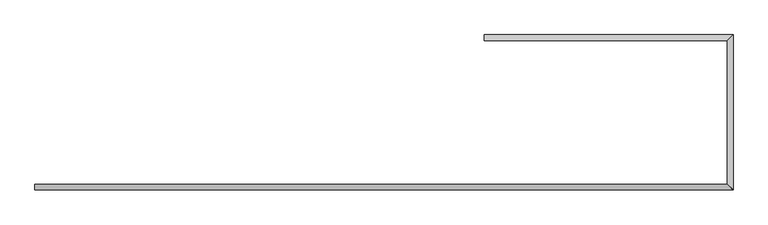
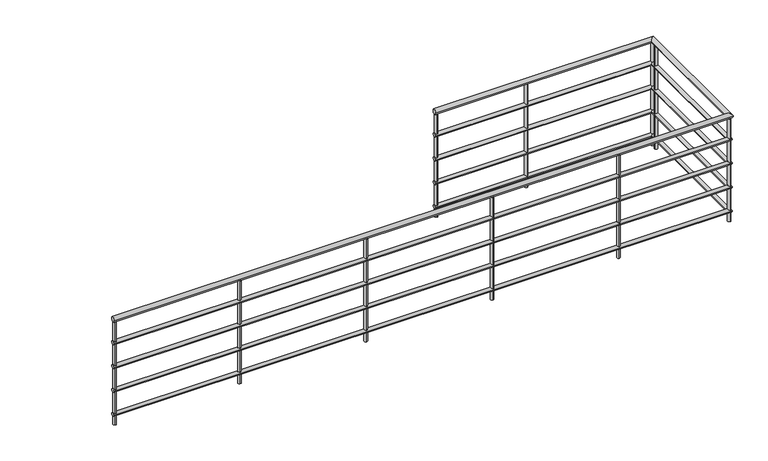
"""IFC4 building model written with IfcOpenShell, lengths in millimetres: railing geometry, 900mm 管."""

from ifc_helpers import new_model, si_unit, point, frame, frame_2d, origin, origin_with_axes, place, context, project, spatial, circle_curve, ellipse_curve, trimmed, segment, composite_curve, outline, extrude, source, transform, mapped, element, save
from ifc_brep_helpers import plane_surface, cylinder_surface, advanced_brep


def railing_f8acf562(model_context):
    return source(origin(), model_context, "Body", "SolidModel", [
        advanced_brep(
        [(7752.9445117, -5604.1637817, 880.0), (7752.9445117, -5644.1637817, 880.0), (12607.9445117, -5604.1637817, 880.0), (12647.9445117, -5644.1637817, 880.0), (12607.9445117, -4594.1637817, 880.0), (12647.9445117, -4554.1637817, 880.0), (10902.9445117, -4594.1637817, 880.0), (10902.9445117, -4554.1637817, 880.0)],
        [
            (0, 1, circle_curve(frame((7752.9445117, -5624.1637817, 880.0), z_axis=(-1.0, 0.0, 0.0), x_axis=(0.0, -1.0, 0.0)), 20.0)),
            (1, 0, circle_curve(frame((7752.9445117, -5624.1637817, 880.0), z_axis=(-1.0, 0.0, 0.0), x_axis=(0.0, -1.0, 0.0)), 20.0)),
            (0, 2),
            (2, 3, ellipse_curve(frame((12627.9445117, -5624.1637817, 880.0), z_axis=(-0.7071067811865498, -0.7071067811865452, 0.0), x_axis=(-0.7071067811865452, 0.7071067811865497, 0.0)), 28.2842712, 20.0)),
            (3, 1),
            (3, 2, ellipse_curve(frame((12627.9445117, -5624.1637817, 880.0), z_axis=(-0.7071067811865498, -0.7071067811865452, 0.0), x_axis=(-0.7071067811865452, 0.7071067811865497, 0.0)), 28.2842712, 20.0)),
            (2, 4),
            (4, 5, ellipse_curve(frame((12627.9445117, -4574.1637817, 880.0), z_axis=(0.7071067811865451, -0.7071067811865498, 0.0), x_axis=(-0.7071067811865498, -0.7071067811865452, 0.0)), 28.2842712, 20.0)),
            (5, 3),
            (5, 4, ellipse_curve(frame((12627.9445117, -4574.1637817, 880.0), z_axis=(0.7071067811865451, -0.7071067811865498, 0.0), x_axis=(-0.7071067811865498, -0.7071067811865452, 0.0)), 28.2842712, 20.0)),
            (6, 7, circle_curve(frame((10902.9445117, -4574.1637817, 880.0), z_axis=(-1.0, 0.0, 0.0), x_axis=(0.0, 1.0, 0.0)), 20.0)),
            (7, 6, circle_curve(frame((10902.9445117, -4574.1637817, 880.0), z_axis=(-1.0, 0.0, 0.0), x_axis=(0.0, 1.0, 0.0)), 20.0)),
            (4, 6),
            (7, 5),
        ],
        [
            plane_surface(frame((7752.9445117, -5624.1637817, 900.0), z_axis=(-1.0, 0.0, 0.0), x_axis=(0.0, 1.0, 0.0))),
            cylinder_surface(frame((7752.9445117, -5624.1637817, 880.0), z_axis=(-1.0, 0.0, 0.0), x_axis=(0.0, -1.0, 0.0)), 20.0),
            cylinder_surface(frame((12627.9445117, -5624.1637817, 880.0), z_axis=(0.0, -1.0, 0.0), x_axis=(1.0, 0.0, 0.0)), 20.0),
            plane_surface(frame((10902.9445117, -4574.1637817, 900.0), z_axis=(-1.0, 0.0, 0.0), x_axis=(0.0, -1.0, 0.0))),
            cylinder_surface(frame((12627.9445117, -4574.1637817, 880.0), z_axis=(1.0, 0.0, 0.0), x_axis=(0.0, 1.0, 0.0)), 20.0),
        ],
        [
            (0, [[1, 2]]),
            (1, [[-1, 3, 4, 5]]),
            (1, [[-2, -5, 6, -3]]),
            (2, [[-4, 7, 8, 9]]),
            (2, [[-6, -9, 10, -7]]),
            (3, [[11, 12]]),
            (4, [[-8, 13, -12, 14]]),
            (4, [[-10, -14, -11, -13]]),
        ],
    ),
        advanced_brep(
        [(7752.9445117, -5609.1637817, 685.0), (7752.9445117, -5639.1637817, 685.0), (12612.9445117, -5609.1637817, 685.0), (12642.9445117, -5639.1637817, 685.0), (12612.9445117, -4589.1637817, 685.0), (12642.9445117, -4559.1637817, 685.0), (10902.9445117, -4589.1637817, 685.0), (10902.9445117, -4559.1637817, 685.0)],
        [
            (0, 1, circle_curve(frame((7752.9445117, -5624.1637817, 685.0), z_axis=(-1.0, 0.0, 0.0), x_axis=(0.0, -1.0, 0.0)), 15.0)),
            (1, 0, circle_curve(frame((7752.9445117, -5624.1637817, 685.0), z_axis=(-1.0, 0.0, 0.0), x_axis=(0.0, -1.0, 0.0)), 15.0)),
            (0, 2),
            (2, 3, ellipse_curve(frame((12627.9445117, -5624.1637817, 685.0), z_axis=(-0.7071067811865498, -0.7071067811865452, 0.0), x_axis=(-0.7071067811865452, 0.7071067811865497, 0.0)), 21.2132034, 15.0)),
            (3, 1),
            (3, 2, ellipse_curve(frame((12627.9445117, -5624.1637817, 685.0), z_axis=(-0.7071067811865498, -0.7071067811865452, 0.0), x_axis=(-0.7071067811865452, 0.7071067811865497, 0.0)), 21.2132034, 15.0)),
            (2, 4),
            (4, 5, ellipse_curve(frame((12627.9445117, -4574.1637817, 685.0), z_axis=(0.7071067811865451, -0.7071067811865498, 0.0), x_axis=(-0.7071067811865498, -0.7071067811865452, 0.0)), 21.2132034, 15.0)),
            (5, 3),
            (5, 4, ellipse_curve(frame((12627.9445117, -4574.1637817, 685.0), z_axis=(0.7071067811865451, -0.7071067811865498, 0.0), x_axis=(-0.7071067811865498, -0.7071067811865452, 0.0)), 21.2132034, 15.0)),
            (6, 7, circle_curve(frame((10902.9445117, -4574.1637817, 685.0), z_axis=(-1.0, 0.0, 0.0), x_axis=(0.0, 1.0, 0.0)), 15.0)),
            (7, 6, circle_curve(frame((10902.9445117, -4574.1637817, 685.0), z_axis=(-1.0, 0.0, 0.0), x_axis=(0.0, 1.0, 0.0)), 15.0)),
            (4, 6),
            (7, 5),
        ],
        [
            plane_surface(frame((7752.9445117, -5624.1637817, 700.0), z_axis=(-1.0, 0.0, 0.0), x_axis=(0.0, 1.0, 0.0))),
            cylinder_surface(frame((7752.9445117, -5624.1637817, 685.0), z_axis=(-1.0, 0.0, 0.0), x_axis=(0.0, -1.0, 0.0)), 15.0),
            cylinder_surface(frame((12627.9445117, -5624.1637817, 685.0), z_axis=(0.0, -1.0, 0.0), x_axis=(1.0, 0.0, 0.0)), 15.0),
            plane_surface(frame((10902.9445117, -4574.1637817, 700.0), z_axis=(-1.0, 0.0, 0.0), x_axis=(0.0, -1.0, 0.0))),
            cylinder_surface(frame((12627.9445117, -4574.1637817, 685.0), z_axis=(1.0, 0.0, 0.0), x_axis=(0.0, 1.0, 0.0)), 15.0),
        ],
        [
            (0, [[1, 2]]),
            (1, [[-1, 3, 4, 5]]),
            (1, [[-2, -5, 6, -3]]),
            (2, [[-4, 7, 8, 9]]),
            (2, [[-6, -9, 10, -7]]),
            (3, [[11, 12]]),
            (4, [[-8, 13, -12, 14]]),
            (4, [[-10, -14, -11, -13]]),
        ],
    ),
        advanced_brep(
        [(7752.9445117, -5609.1637817, 485.0), (7752.9445117, -5639.1637817, 485.0), (12612.9445117, -5609.1637817, 485.0), (12642.9445117, -5639.1637817, 485.0), (12612.9445117, -4589.1637817, 485.0), (12642.9445117, -4559.1637817, 485.0), (10902.9445117, -4589.1637817, 485.0), (10902.9445117, -4559.1637817, 485.0)],
        [
            (0, 1, circle_curve(frame((7752.9445117, -5624.1637817, 485.0), z_axis=(-1.0, 0.0, 0.0), x_axis=(0.0, -1.0, 0.0)), 15.0)),
            (1, 0, circle_curve(frame((7752.9445117, -5624.1637817, 485.0), z_axis=(-1.0, 0.0, 0.0), x_axis=(0.0, -1.0, 0.0)), 15.0)),
            (0, 2),
            (2, 3, ellipse_curve(frame((12627.9445117, -5624.1637817, 485.0), z_axis=(-0.7071067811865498, -0.7071067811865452, 0.0), x_axis=(-0.7071067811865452, 0.7071067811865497, 0.0)), 21.2132034, 15.0)),
            (3, 1),
            (3, 2, ellipse_curve(frame((12627.9445117, -5624.1637817, 485.0), z_axis=(-0.7071067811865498, -0.7071067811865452, 0.0), x_axis=(-0.7071067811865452, 0.7071067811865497, 0.0)), 21.2132034, 15.0)),
            (2, 4),
            (4, 5, ellipse_curve(frame((12627.9445117, -4574.1637817, 485.0), z_axis=(0.7071067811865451, -0.7071067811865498, 0.0), x_axis=(-0.7071067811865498, -0.7071067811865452, 0.0)), 21.2132034, 15.0)),
            (5, 3),
            (5, 4, ellipse_curve(frame((12627.9445117, -4574.1637817, 485.0), z_axis=(0.7071067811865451, -0.7071067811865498, 0.0), x_axis=(-0.7071067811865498, -0.7071067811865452, 0.0)), 21.2132034, 15.0)),
            (6, 7, circle_curve(frame((10902.9445117, -4574.1637817, 485.0), z_axis=(-1.0, 0.0, 0.0), x_axis=(0.0, 1.0, 0.0)), 15.0)),
            (7, 6, circle_curve(frame((10902.9445117, -4574.1637817, 485.0), z_axis=(-1.0, 0.0, 0.0), x_axis=(0.0, 1.0, 0.0)), 15.0)),
            (4, 6),
            (7, 5),
        ],
        [
            plane_surface(frame((7752.9445117, -5624.1637817, 500.0), z_axis=(-1.0, 0.0, 0.0), x_axis=(0.0, 1.0, 0.0))),
            cylinder_surface(frame((7752.9445117, -5624.1637817, 485.0), z_axis=(-1.0, 0.0, 0.0), x_axis=(0.0, -1.0, 0.0)), 15.0),
            cylinder_surface(frame((12627.9445117, -5624.1637817, 485.0), z_axis=(0.0, -1.0, 0.0), x_axis=(1.0, 0.0, 0.0)), 15.0),
            plane_surface(frame((10902.9445117, -4574.1637817, 500.0), z_axis=(-1.0, 0.0, 0.0), x_axis=(0.0, -1.0, 0.0))),
            cylinder_surface(frame((12627.9445117, -4574.1637817, 485.0), z_axis=(1.0, 0.0, 0.0), x_axis=(0.0, 1.0, 0.0)), 15.0),
        ],
        [
            (0, [[1, 2]]),
            (1, [[-1, 3, 4, 5]]),
            (1, [[-2, -5, 6, -3]]),
            (2, [[-4, 7, 8, 9]]),
            (2, [[-6, -9, 10, -7]]),
            (3, [[11, 12]]),
            (4, [[-8, 13, -12, 14]]),
            (4, [[-10, -14, -11, -13]]),
        ],
    ),
        advanced_brep(
        [(7752.9445117, -5609.1637817, 285.0), (7752.9445117, -5639.1637817, 285.0), (12612.9445117, -5609.1637817, 285.0), (12642.9445117, -5639.1637817, 285.0), (12612.9445117, -4589.1637817, 285.0), (12642.9445117, -4559.1637817, 285.0), (10902.9445117, -4589.1637817, 285.0), (10902.9445117, -4559.1637817, 285.0)],
        [
            (0, 1, circle_curve(frame((7752.9445117, -5624.1637817, 285.0), z_axis=(-1.0, 0.0, 0.0), x_axis=(0.0, -1.0, 0.0)), 15.0)),
            (1, 0, circle_curve(frame((7752.9445117, -5624.1637817, 285.0), z_axis=(-1.0, 0.0, 0.0), x_axis=(0.0, -1.0, 0.0)), 15.0)),
            (0, 2),
            (2, 3, ellipse_curve(frame((12627.9445117, -5624.1637817, 285.0), z_axis=(-0.7071067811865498, -0.7071067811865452, 0.0), x_axis=(-0.7071067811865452, 0.7071067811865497, 0.0)), 21.2132034, 15.0)),
            (3, 1),
            (3, 2, ellipse_curve(frame((12627.9445117, -5624.1637817, 285.0), z_axis=(-0.7071067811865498, -0.7071067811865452, 0.0), x_axis=(-0.7071067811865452, 0.7071067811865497, 0.0)), 21.2132034, 15.0)),
            (2, 4),
            (4, 5, ellipse_curve(frame((12627.9445117, -4574.1637817, 285.0), z_axis=(0.7071067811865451, -0.7071067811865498, 0.0), x_axis=(-0.7071067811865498, -0.7071067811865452, 0.0)), 21.2132034, 15.0)),
            (5, 3),
            (5, 4, ellipse_curve(frame((12627.9445117, -4574.1637817, 285.0), z_axis=(0.7071067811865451, -0.7071067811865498, 0.0), x_axis=(-0.7071067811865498, -0.7071067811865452, 0.0)), 21.2132034, 15.0)),
            (6, 7, circle_curve(frame((10902.9445117, -4574.1637817, 285.0), z_axis=(-1.0, 0.0, 0.0), x_axis=(0.0, 1.0, 0.0)), 15.0)),
            (7, 6, circle_curve(frame((10902.9445117, -4574.1637817, 285.0), z_axis=(-1.0, 0.0, 0.0), x_axis=(0.0, 1.0, 0.0)), 15.0)),
            (4, 6),
            (7, 5),
        ],
        [
            plane_surface(frame((7752.9445117, -5624.1637817, 300.0), z_axis=(-1.0, 0.0, 0.0), x_axis=(0.0, 1.0, 0.0))),
            cylinder_surface(frame((7752.9445117, -5624.1637817, 285.0), z_axis=(-1.0, 0.0, 0.0), x_axis=(0.0, -1.0, 0.0)), 15.0),
            cylinder_surface(frame((12627.9445117, -5624.1637817, 285.0), z_axis=(0.0, -1.0, 0.0), x_axis=(1.0, 0.0, 0.0)), 15.0),
            plane_surface(frame((10902.9445117, -4574.1637817, 300.0), z_axis=(-1.0, 0.0, 0.0), x_axis=(0.0, -1.0, 0.0))),
            cylinder_surface(frame((12627.9445117, -4574.1637817, 285.0), z_axis=(1.0, 0.0, 0.0), x_axis=(0.0, 1.0, 0.0)), 15.0),
        ],
        [
            (0, [[1, 2]]),
            (1, [[-1, 3, 4, 5]]),
            (1, [[-2, -5, 6, -3]]),
            (2, [[-4, 7, 8, 9]]),
            (2, [[-6, -9, 10, -7]]),
            (3, [[11, 12]]),
            (4, [[-8, 13, -12, 14]]),
            (4, [[-10, -14, -11, -13]]),
        ],
    ),
        advanced_brep(
        [(7752.9445117, -5609.1637817, 85.0), (7752.9445117, -5639.1637817, 85.0), (12612.9445117, -5609.1637817, 85.0), (12642.9445117, -5639.1637817, 85.0), (12612.9445117, -4589.1637817, 85.0), (12642.9445117, -4559.1637817, 85.0), (10902.9445117, -4589.1637817, 85.0), (10902.9445117, -4559.1637817, 85.0)],
        [
            (0, 1, circle_curve(frame((7752.9445117, -5624.1637817, 85.0), z_axis=(-1.0, 0.0, 0.0), x_axis=(0.0, -1.0, 0.0)), 15.0)),
            (1, 0, circle_curve(frame((7752.9445117, -5624.1637817, 85.0), z_axis=(-1.0, 0.0, 0.0), x_axis=(0.0, -1.0, 0.0)), 15.0)),
            (0, 2),
            (2, 3, ellipse_curve(frame((12627.9445117, -5624.1637817, 85.0), z_axis=(-0.7071067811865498, -0.7071067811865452, 0.0), x_axis=(-0.7071067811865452, 0.7071067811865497, 0.0)), 21.2132034, 15.0)),
            (3, 1),
            (3, 2, ellipse_curve(frame((12627.9445117, -5624.1637817, 85.0), z_axis=(-0.7071067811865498, -0.7071067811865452, 0.0), x_axis=(-0.7071067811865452, 0.7071067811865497, 0.0)), 21.2132034, 15.0)),
            (2, 4),
            (4, 5, ellipse_curve(frame((12627.9445117, -4574.1637817, 85.0), z_axis=(0.7071067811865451, -0.7071067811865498, 0.0), x_axis=(-0.7071067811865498, -0.7071067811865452, 0.0)), 21.2132034, 15.0)),
            (5, 3),
            (5, 4, ellipse_curve(frame((12627.9445117, -4574.1637817, 85.0), z_axis=(0.7071067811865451, -0.7071067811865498, 0.0), x_axis=(-0.7071067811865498, -0.7071067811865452, 0.0)), 21.2132034, 15.0)),
            (6, 7, circle_curve(frame((10902.9445117, -4574.1637817, 85.0), z_axis=(-1.0, 0.0, 0.0), x_axis=(0.0, 1.0, 0.0)), 15.0)),
            (7, 6, circle_curve(frame((10902.9445117, -4574.1637817, 85.0), z_axis=(-1.0, 0.0, 0.0), x_axis=(0.0, 1.0, 0.0)), 15.0)),
            (4, 6),
            (7, 5),
        ],
        [
            plane_surface(frame((7752.9445117, -5624.1637817, 100.0), z_axis=(-1.0, 0.0, 0.0), x_axis=(0.0, 1.0, 0.0))),
            cylinder_surface(frame((7752.9445117, -5624.1637817, 85.0), z_axis=(-1.0, 0.0, 0.0), x_axis=(0.0, -1.0, 0.0)), 15.0),
            cylinder_surface(frame((12627.9445117, -5624.1637817, 85.0), z_axis=(0.0, -1.0, 0.0), x_axis=(1.0, 0.0, 0.0)), 15.0),
            plane_surface(frame((10902.9445117, -4574.1637817, 100.0), z_axis=(-1.0, 0.0, 0.0), x_axis=(0.0, -1.0, 0.0))),
            cylinder_surface(frame((12627.9445117, -4574.1637817, 85.0), z_axis=(1.0, 0.0, 0.0), x_axis=(0.0, 1.0, 0.0)), 15.0),
        ],
        [
            (0, [[1, 2]]),
            (1, [[-1, 3, 4, 5]]),
            (1, [[-2, -5, 6, -3]]),
            (2, [[-4, 7, 8, 9]]),
            (2, [[-6, -9, 10, -7]]),
            (3, [[11, 12]]),
            (4, [[-8, 13, -12, 14]]),
            (4, [[-10, -14, -11, -13]]),
        ],
    ),
        extrude(outline(composite_curve([segment(trimmed(circle_curve(frame_2d((11627.9445117, -4574.1637817)), 12.5), [point((11627.9445117, -4586.6637817))], [point((11627.9445117, -4561.6637817))], False, "CARTESIAN"), True, "CONTINUOUS"), segment(trimmed(circle_curve(frame_2d((11627.9445117, -4574.1637817)), 12.5), [point((11627.9445117, -4561.6637817))], [point((11627.9445117, -4586.6637817))], False, "CARTESIAN"), True, "CONTINUOUS")], self_intersect=False)), origin_with_axes(), (0.0, 0.0, 1.0), 860.0),
        extrude(outline(composite_curve([segment(trimmed(circle_curve(frame_2d((12627.9445117, -4624.1637817)), 12.5), [point((12615.4445117, -4624.1637817))], [point((12640.4445117, -4624.1637817))], False, "CARTESIAN"), True, "CONTINUOUS"), segment(trimmed(circle_curve(frame_2d((12627.9445117, -4624.1637817)), 12.5), [point((12640.4445117, -4624.1637817))], [point((12615.4445117, -4624.1637817))], False, "CARTESIAN"), True, "CONTINUOUS")], self_intersect=False)), origin_with_axes(), (0.0, 0.0, 1.0), 860.0),
        extrude(outline(composite_curve([segment(trimmed(circle_curve(frame_2d((11752.9445117, -5624.1637817)), 12.5), [point((11752.9445117, -5611.6637817))], [point((11752.9445117, -5636.6637817))], False, "CARTESIAN"), True, "CONTINUOUS"), segment(trimmed(circle_curve(frame_2d((11752.9445117, -5624.1637817)), 12.5), [point((11752.9445117, -5636.6637817))], [point((11752.9445117, -5611.6637817))], False, "CARTESIAN"), True, "CONTINUOUS")], self_intersect=False)), origin_with_axes(), (0.0, 0.0, 1.0), 860.0),
        extrude(outline(composite_curve([segment(trimmed(circle_curve(frame_2d((10752.9445117, -5624.1637817)), 12.5), [point((10752.9445117, -5611.6637817))], [point((10752.9445117, -5636.6637817))], False, "CARTESIAN"), True, "CONTINUOUS"), segment(trimmed(circle_curve(frame_2d((10752.9445117, -5624.1637817)), 12.5), [point((10752.9445117, -5636.6637817))], [point((10752.9445117, -5611.6637817))], False, "CARTESIAN"), True, "CONTINUOUS")], self_intersect=False)), origin_with_axes(), (0.0, 0.0, 1.0), 860.0),
        extrude(outline(composite_curve([segment(trimmed(circle_curve(frame_2d((9752.9445117, -5624.1637817)), 12.5), [point((9752.9445117, -5611.6637817))], [point((9752.9445117, -5636.6637817))], False, "CARTESIAN"), True, "CONTINUOUS"), segment(trimmed(circle_curve(frame_2d((9752.9445117, -5624.1637817)), 12.5), [point((9752.9445117, -5636.6637817))], [point((9752.9445117, -5611.6637817))], False, "CARTESIAN"), True, "CONTINUOUS")], self_intersect=False)), origin_with_axes(), (0.0, 0.0, 1.0), 860.0),
        extrude(outline(composite_curve([segment(trimmed(circle_curve(frame_2d((8752.9445117, -5624.1637817)), 12.5), [point((8752.9445117, -5611.6637817))], [point((8752.9445117, -5636.6637817))], False, "CARTESIAN"), True, "CONTINUOUS"), segment(trimmed(circle_curve(frame_2d((8752.9445117, -5624.1637817)), 12.5), [point((8752.9445117, -5636.6637817))], [point((8752.9445117, -5611.6637817))], False, "CARTESIAN"), True, "CONTINUOUS")], self_intersect=False)), origin_with_axes(), (0.0, 0.0, 1.0), 860.0),
        extrude(outline(composite_curve([segment(trimmed(circle_curve(frame_2d((12627.9445117, -4574.1637817)), 12.5), [point((12615.4445117, -4574.1637817))], [point((12640.4445117, -4574.1637817))], False, "CARTESIAN"), True, "CONTINUOUS"), segment(trimmed(circle_curve(frame_2d((12627.9445117, -4574.1637817)), 12.5), [point((12640.4445117, -4574.1637817))], [point((12615.4445117, -4574.1637817))], False, "CARTESIAN"), True, "CONTINUOUS")], self_intersect=False)), origin_with_axes(), (0.0, 0.0, 1.0), 860.0),
        extrude(outline(composite_curve([segment(trimmed(circle_curve(frame_2d((12627.9445117, -5624.1637817)), 12.5), [point((12627.9445117, -5611.6637817))], [point((12627.9445117, -5636.6637817))], False, "CARTESIAN"), True, "CONTINUOUS"), segment(trimmed(circle_curve(frame_2d((12627.9445117, -5624.1637817)), 12.5), [point((12627.9445117, -5636.6637817))], [point((12627.9445117, -5611.6637817))], False, "CARTESIAN"), True, "CONTINUOUS")], self_intersect=False)), origin_with_axes(), (0.0, 0.0, 1.0), 860.0),
        extrude(outline(composite_curve([segment(trimmed(circle_curve(frame_2d((10915.4445117, -4574.1637817)), 12.5), [point((10915.4445117, -4586.6637817))], [point((10915.4445117, -4561.6637817))], False, "CARTESIAN"), True, "CONTINUOUS"), segment(trimmed(circle_curve(frame_2d((10915.4445117, -4574.1637817)), 12.5), [point((10915.4445117, -4561.6637817))], [point((10915.4445117, -4586.6637817))], False, "CARTESIAN"), True, "CONTINUOUS")], self_intersect=False)), origin_with_axes(), (0.0, 0.0, 1.0), 860.0),
        extrude(outline(composite_curve([segment(trimmed(circle_curve(frame_2d((7765.4445117, -5624.1637817)), 12.5), [point((7765.4445117, -5611.6637817))], [point((7765.4445117, -5636.6637817))], False, "CARTESIAN"), True, "CONTINUOUS"), segment(trimmed(circle_curve(frame_2d((7765.4445117, -5624.1637817)), 12.5), [point((7765.4445117, -5636.6637817))], [point((7765.4445117, -5611.6637817))], False, "CARTESIAN"), True, "CONTINUOUS")], self_intersect=False)), origin_with_axes(), (0.0, 0.0, 1.0), 860.0),
    ])


if __name__ == "__main__":
    model = new_model("IFC4")
    model_context = context("Model", 3, world=origin())
    ifc_project = project(units=[si_unit("LENGTHUNIT", "METRE", prefix="MILLI")], contexts=[model_context])
    site = spatial("IfcSite", under=ifc_project)
    building = spatial("IfcBuilding", under=site)
    placement = place(None, origin())
    railing_shape = railing_f8acf562(model_context)
    element("IfcRailing", 1, ObjectType="900mm 管", at=placement, inside=building, context=model_context, shape_type="MappedRepresentation", body=[
        mapped(railing_shape, transform((0.0, 0.0, 0.0), x_axis=(1.0, 0.0, 0.0), y_axis=(0.0, 1.0, 0.0), z_axis=(0.0, 0.0, 1.0))),
    ])
    save(model, "model.ifc")
